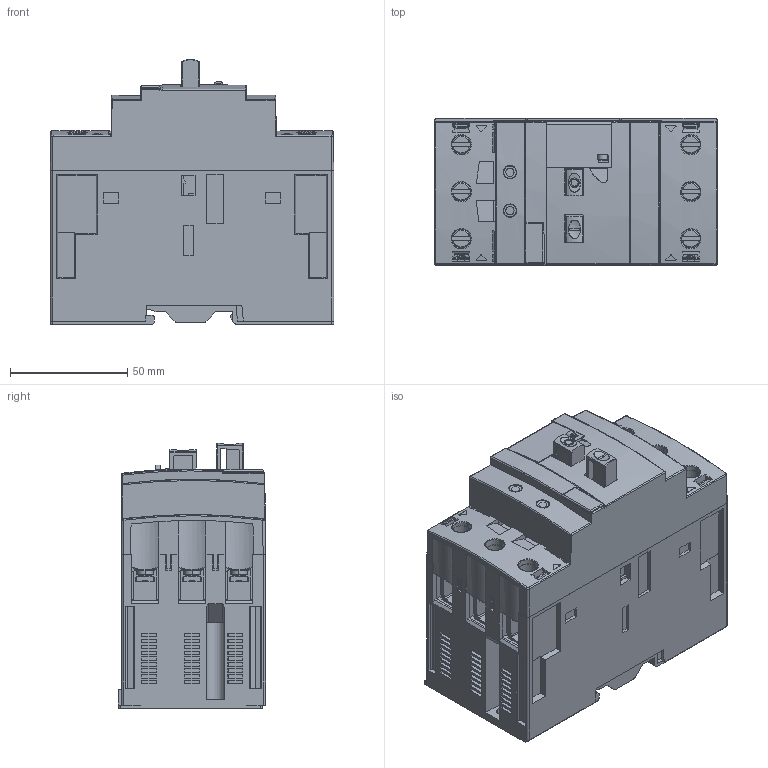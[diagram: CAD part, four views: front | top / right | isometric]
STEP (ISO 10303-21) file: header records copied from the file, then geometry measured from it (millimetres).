
FILE_DESCRIPTION((''),'2;1');
FILE_NAME('80ZONGZHUANG_SW0001','2022-08-03T',('xujianyu'),(''),'PRO/ENGINEER BY PARAMETRIC TECHNOLOGY CORPORATION, 2017170','PRO/ENGINEER BY PARAMETRIC TECHNOLOGY CORPORATION, 2017170','');
FILE_SCHEMA(('CONFIG_CONTROL_DESIGN'));
Products named in the file (1): 80ZONGZHUANG_SW0001
Bounding box: 120.61 x 62.62 x 112.91 mm (x, y, z)
Volume: 356772.8 mm3; surface area: 209882.9 mm2
Topology: 1 solids, 1 shells, 4370 faces, 12528 edges, 8103 vertices
Faces by surface type: plane 3426, cylinder 751, bspline 78, cone 62, torus 49, sphere 4
Entity records: 161556 total; most frequent: CARTESIAN_POINT 42551, ORIENTED_EDGE 25022, DIRECTION 21902, EDGE_CURVE 12511, VECTOR 10014, LINE 10014, VERTEX_POINT 8099, AXIS2_PLACEMENT_3D 5944
